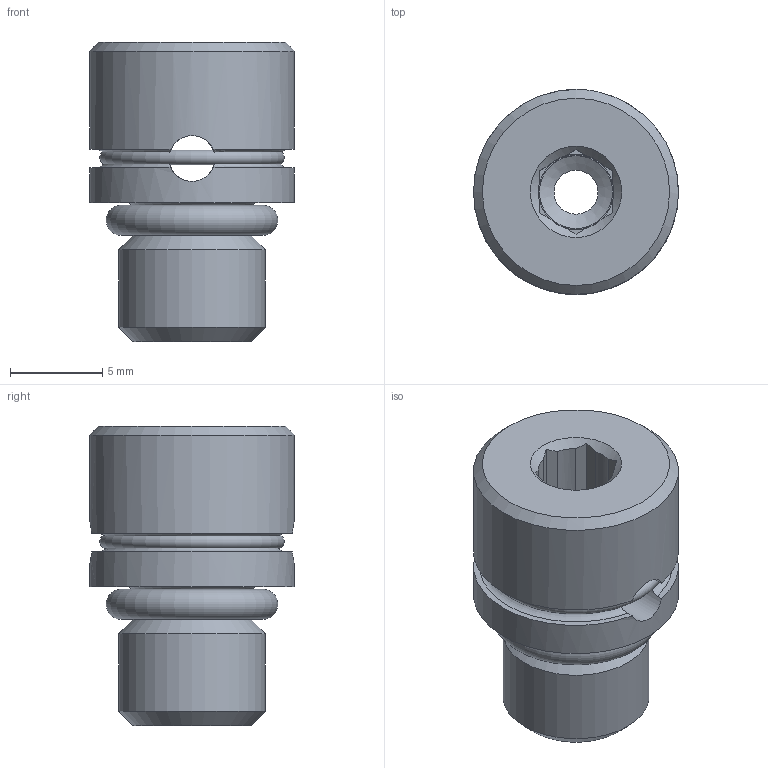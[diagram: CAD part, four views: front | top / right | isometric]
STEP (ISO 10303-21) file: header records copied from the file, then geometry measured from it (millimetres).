
FILE_DESCRIPTION(/* description */ ('SENSE CHECK, SAE 2'),/* implementation_level */ '2;1');
FILE_NAME(/* name */ 'C:\CAD_Work\Designs\HCS\HCS-Unrestricted\CVH021.stp',/* time_stamp */ '2018-11-19T15:18:42-06:00',/* author */ ('529148'),/* organization */ (''),/* preprocessor_version */ 'ST-DEVELOPER v16.5',/* originating_system */ 'Autodesk Inventor 2017',/* authorisation */ '');
FILE_SCHEMA (('AUTOMOTIVE_DESIGN { 1 0 10303 214 3 1 1 }'));
Length unit declared in the file: inch
Products named in the file (4): CVH021; 129002; 3902V-9; 900564-133N
Assembly tree (3 placements, depth 2):
  CVH021
    129002
    3902V-9
    900564-133N
Bounding box: 11.13 x 11.12 x 16.23 mm (x, y, z)
Volume: 986.5 mm3; surface area: 1114.3 mm2
Topology: 3 solids, 3 shells, 47 faces, 129 edges, 83 vertices
Faces by surface type: plane 26, cylinder 10, cone 6, torus 5
Full cylindrical faces by diameter (mm): 2.388 x1, 2.489 x2, 3.962 x2, 4.089 x1, 6.375 x1, 7.938 x1, 11.125 x2
Entity records: 1628 total; most frequent: CARTESIAN_POINT 454, DIRECTION 228, ORIENTED_EDGE 202, EDGE_CURVE 101, AXIS2_PLACEMENT_3D 95, VERTEX_POINT 73, EDGE_LOOP 70, FACE_OUTER_BOUND 47
